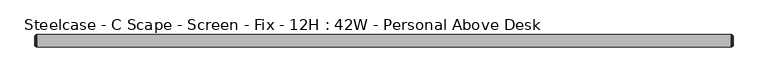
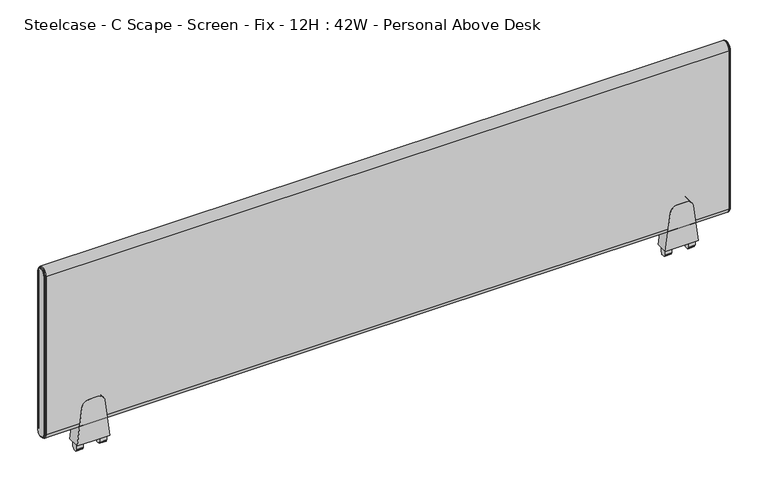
"""IFC4 building model written with IfcOpenShell, lengths in millimetres: furniture geometry, Steelcase - C Scape - Screen - Fix - 12H : 42W - Personal Above Desk."""

from ifc_helpers import new_model, si_unit, point, frame, frame_2d, origin, place, context, project, spatial, polyline, circle_curve, ellipse_curve, trimmed, segment, composite_curve, outline, extrude, source, transform, mapped, element, save
from ifc_brep_helpers import plane_surface, cylinder_surface, revolved_surface, advanced_brep


def steelcase_c_scape_screen_fix_12h_42w_personal_above_desk_f8d1089c(model_context):
    return source(origin(), model_context, "Body", "SolidModel", [
        extrude(outline(composite_curve([segment(polyline([(723.811112, 101.4730434), (784.1362421, 94.0661495)]), True, "CONTINUOUS"), segment(trimmed(circle_curve(frame_2d((782.8143718, 83.300233)), 10.8467645), [point((784.1362421, 94.0661495))], [point((793.6611362, 83.300233))], False, "CARTESIAN"), True, "CONTINUOUS"), segment(polyline([(793.6611362, 83.300233), (793.6611362, 76.2001674), (793.6611362, 69.1001018)]), True, "CONTINUOUS"), segment(trimmed(circle_curve(frame_2d((782.8143718, 69.1001018)), 10.8467645), [point((793.6611362, 69.1001018))], [point((784.1362421, 58.3341853))], False, "CARTESIAN"), True, "CONTINUOUS"), segment(polyline([(784.1362421, 58.3341853), (723.811112, 50.9272915), (723.811112, 76.2001674), (723.811112, 101.4730434)]), True, "CONTINUOUS")], self_intersect=False)), frame((0.0, -9.525, 0.0), z_axis=(0.0, 1.0, 0.0), x_axis=(0.0, 0.0, 1.0)), (0.0, 0.0, 1.0), 19.05),
        extrude(outline(polyline([(4.5465975, 723.811112), (4.5465975, 713.9051033), (4.0139265, 713.0186748), (2.9972008, 713.0186748), (2.9972008, 710.7834188), (0.0, 710.692), (-2.9972008, 710.7834188), (-2.9972008, 713.0186748), (-4.0139265, 713.0186748), (-4.5465975, 713.9051033), (-4.5465975, 723.811112), (0.0, 723.811112), (4.5465975, 723.811112)])), frame((88.9267162, 0.0, 0.0), z_axis=(1.0, 0.0, 0.0), x_axis=(0.0, 1.0, 0.0)), (0.0, 0.0, 1.0), 10.7813187),
        extrude(outline(polyline([(4.5465975, 723.811112), (4.5465975, 713.9051033), (4.0139265, 713.0186748), (2.9972008, 713.0186748), (2.9972008, 710.7834188), (0.0, 710.692), (-2.9972008, 710.7834188), (-2.9972008, 713.0186748), (-4.0139265, 713.0186748), (-4.5465975, 713.9051033), (-4.5465975, 723.811112), (0.0, 723.811112), (4.5465975, 723.811112)])), frame((52.6923, 0.0, 0.0), z_axis=(1.0, 0.0, 0.0), x_axis=(0.0, 1.0, 0.0)), (0.0, 0.0, 1.0), 10.7813187),
        extrude(outline(composite_curve([segment(polyline([(723.811112, 1015.1107132), (784.1362421, 1007.7038193)]), True, "CONTINUOUS"), segment(trimmed(circle_curve(frame_2d((782.8143718, 996.9379028)), 10.8467645), [point((784.1362421, 1007.7038193))], [point((793.6611362, 996.9379028))], False, "CARTESIAN"), True, "CONTINUOUS"), segment(polyline([(793.6611362, 996.9379028), (793.6611362, 989.8378372), (793.6611362, 982.7377716)]), True, "CONTINUOUS"), segment(trimmed(circle_curve(frame_2d((782.8143718, 982.7377716)), 10.8467645), [point((793.6611362, 982.7377716))], [point((784.1362421, 971.9718551))], False, "CARTESIAN"), True, "CONTINUOUS"), segment(polyline([(784.1362421, 971.9718551), (723.811112, 964.5649612), (723.811112, 989.8378372), (723.811112, 1015.1107132)]), True, "CONTINUOUS")], self_intersect=False)), frame((0.0, -9.525, 0.0), z_axis=(0.0, 1.0, 0.0), x_axis=(0.0, 0.0, 1.0)), (0.0, 0.0, 1.0), 19.05),
        extrude(outline(polyline([(4.5465975, 723.811112), (4.5465975, 713.9051033), (4.0139265, 713.0186748), (2.9972008, 713.0186748), (2.9972008, 710.7834188), (0.0, 710.692), (-2.9972008, 710.7834188), (-2.9972008, 713.0186748), (-4.0139265, 713.0186748), (-4.5465975, 713.9051033), (-4.5465975, 723.811112), (0.0, 723.811112), (4.5465975, 723.811112)])), frame((1002.564386, 0.0, 0.0), z_axis=(1.0, 0.0, 0.0), x_axis=(0.0, 1.0, 0.0)), (0.0, 0.0, 1.0), 10.7813187),
        extrude(outline(polyline([(4.5465975, 723.811112), (4.5465975, 713.9051033), (4.0139265, 713.0186748), (2.9972008, 713.0186748), (2.9972008, 710.7834188), (0.0, 710.692), (-2.9972008, 710.7834188), (-2.9972008, 713.0186748), (-4.0139265, 713.0186748), (-4.5465975, 713.9051033), (-4.5465975, 723.811112), (0.0, 723.811112), (4.5465975, 723.811112)])), frame((966.3299698, 0.0, 0.0), z_axis=(1.0, 0.0, 0.0), x_axis=(0.0, 1.0, 0.0)), (0.0, 0.0, 1.0), 10.7813187),
        advanced_brep(
        [(1063.2486613, -9.525, 1019.175), (1063.2486613, 9.525, 1019.175), (1063.2486613, 9.525, 758.825), (1063.2486613, -9.525, 758.825), (1066.0426613, 7.4929583, 1019.175), (1066.0426613, -7.4929583, 1019.175), (1066.0426613, -7.4929583, 758.825), (1066.0426613, 7.4929583, 758.825), (1065.5346545, -8.0009651, 1019.175), (1065.5346545, 8.0009651, 1019.175), (1064.2646613, 8.0009651, 1019.175), (1064.2646613, -8.0009651, 1019.175), (1064.2646613, -8.8204932, 1019.175), (1064.2646613, 8.8204932, 1019.175), (1064.2646613, -8.0009651, 758.825), (1065.5346545, -8.0009651, 758.825), (1064.2646613, -8.8204932, 758.825), (1064.2646613, 8.0009651, 758.825), (1065.5346545, 8.0009651, 758.825), (1064.2646613, 8.8204932, 758.825)],
        [
            (0, 1, circle_curve(frame((1063.2486613, 0.0, 1019.175), z_axis=(-1.0, 0.0, 0.0), x_axis=(0.0, 1.0, 0.0)), 9.525)),
            (1, 2),
            (2, 3, circle_curve(frame((1063.2486613, 0.0, 758.825), z_axis=(-1.0, 0.0, 0.0), x_axis=(0.0, -1.0, 0.0)), 9.525)),
            (3, 0),
            (4, 5, circle_curve(frame((1066.0426613, 0.0, 1019.175), z_axis=(1.0, 0.0, 0.0), x_axis=(0.0, 1.0, 0.0)), 7.4929583)),
            (5, 6),
            (6, 7, circle_curve(frame((1066.0426613, 0.0, 758.825), z_axis=(1.0, 0.0, 0.0), x_axis=(0.0, -1.0, 0.0)), 7.4929583)),
            (7, 4),
            (8, 9, circle_curve(frame((1065.5346545, 0.0, 1019.175), z_axis=(-1.0, 0.0, 0.0), x_axis=(0.0, 1.0, 0.0)), 8.0009651)),
            (9, 10),
            (10, 11, circle_curve(frame((1064.2646613, 0.0, 1019.175), z_axis=(1.0, 0.0, 0.0), x_axis=(0.0, 1.0, 0.0)), 8.0009651)),
            (11, 8),
            (8, 5, circle_curve(frame((1065.5346545, -7.4929583, 1019.175), z_axis=(0.0, 0.0, 1.0), x_axis=(0.0, -1.0, 0.0)), 0.5080068)),
            (4, 9, circle_curve(frame((1065.5346545, 7.4929583, 1019.175), z_axis=(0.0, 0.0, 1.0), x_axis=(0.0, 1.0, 0.0)), 0.5080068)),
            (12, 13, circle_curve(frame((1064.2646613, 0.0, 1019.175), z_axis=(-1.0, 0.0, 0.0), x_axis=(0.0, 1.0, 0.0)), 8.8204932)),
            (13, 1, circle_curve(frame((1063.1806211, 8.3420139, 1019.175), z_axis=(0.0, 0.0, 1.0), x_axis=(0.0, 1.0, 0.0)), 1.1849411)),
            (0, 12, circle_curve(frame((1063.1806211, -8.3420139, 1019.175), z_axis=(0.0, 0.0, 1.0), x_axis=(0.0, -1.0, 0.0)), 1.1849411)),
            (11, 14),
            (14, 15),
            (15, 8),
            (15, 6, circle_curve(frame((1065.5346545, -7.4929583, 758.825), z_axis=(0.0, 0.0, 1.0), x_axis=(0.0, -1.0, 0.0)), 0.5080068)),
            (3, 16, circle_curve(frame((1063.1806211, -8.3420139, 758.825), z_axis=(0.0, 0.0, 1.0), x_axis=(0.0, -1.0, 0.0)), 1.1849411)),
            (16, 12),
            (14, 17, circle_curve(frame((1064.2646613, 0.0, 758.825), z_axis=(1.0, 0.0, 0.0), x_axis=(0.0, -1.0, 0.0)), 8.0009651)),
            (17, 18),
            (18, 15, circle_curve(frame((1065.5346545, 0.0, 758.825), z_axis=(-1.0, 0.0, 0.0), x_axis=(0.0, -1.0, 0.0)), 8.0009651)),
            (18, 7, circle_curve(frame((1065.5346545, 7.4929583, 758.825), z_axis=(0.0, 0.0, -1.0), x_axis=(0.0, 1.0, 0.0)), 0.5080068)),
            (2, 19, circle_curve(frame((1063.1806211, 8.3420139, 758.825), z_axis=(0.0, 0.0, -1.0), x_axis=(0.0, 1.0, 0.0)), 1.1849411)),
            (19, 16, circle_curve(frame((1064.2646613, 0.0, 758.825), z_axis=(-1.0, 0.0, 0.0), x_axis=(0.0, -1.0, 0.0)), 8.8204932)),
            (9, 18),
            (17, 10),
            (13, 19),
        ],
        [
            plane_surface(frame((1063.2486613, -6.3509705, 1019.175), z_axis=(-1.0, 0.0, 0.0), x_axis=(0.0, 0.0, 1.0))),
            plane_surface(frame((1066.0426613, -6.3509705, 1019.175), z_axis=(1.0, 0.0, 0.0), x_axis=(0.0, 0.0, -1.0))),
            cylinder_surface(frame((1063.2486613, 0.0, 1019.175), z_axis=(1.0, 0.0, 0.0), x_axis=(0.0, 1.0, 0.0)), 8.0009651),
            revolved_surface(trimmed(ellipse_curve(frame((1065.5346545, 7.4929583, 1019.175), z_axis=(0.0, 0.0, -1.0), x_axis=(0.0, 1.0, 0.0)), 0.5080068, 0.5080068), [point((1065.5346545, 8.0009651, 1019.175))], [point((1066.0426613, 7.4929583, 1019.175))], True, "CARTESIAN"), (1063.2486613, 0.0, 1019.175), (1.0, 0.0, 0.0)),
            revolved_surface(trimmed(ellipse_curve(frame((1063.1806211, 8.3420139, 1019.175), z_axis=(0.0, 0.0, -1.0), x_axis=(0.0, 1.0, 0.0)), 1.1849411, 1.1849411), [point((1063.2486613, 9.525, 1019.175))], [point((1064.2646613, 8.8204932, 1019.175))], True, "CARTESIAN"), (1063.2486613, 0.0, 1019.175), (1.0, 0.0, 0.0)),
            plane_surface(frame((1064.2646613, -8.0009651, 1019.175), z_axis=(0.0, -1.0, 0.0), x_axis=(0.0, 0.0, -1.0))),
            cylinder_surface(frame((1065.5346545, -7.4929583, 1019.175), z_axis=(0.0, 0.0, 1.0), x_axis=(0.0, -1.0, 0.0)), 0.5080068),
            cylinder_surface(frame((1063.1806211, -8.3420139, 1019.175), z_axis=(0.0, 0.0, 1.0), x_axis=(0.0, -1.0, 0.0)), 1.1849411),
            cylinder_surface(frame((1063.2486613, 0.0, 758.825), z_axis=(1.0, 0.0, 0.0), x_axis=(0.0, -1.0, 0.0)), 8.0009651),
            revolved_surface(trimmed(ellipse_curve(frame((1065.5346545, -7.4929583, 758.825), z_axis=(0.0, 0.0, 1.0), x_axis=(0.0, -1.0, 0.0)), 0.5080068, 0.5080068), [point((1065.5346545, -8.0009651, 758.825))], [point((1066.0426613, -7.4929583, 758.825))], True, "CARTESIAN"), (1063.2486613, 0.0, 758.825), (1.0, 0.0, 0.0)),
            revolved_surface(trimmed(ellipse_curve(frame((1063.1806211, -8.3420139, 758.825), z_axis=(0.0, 0.0, 1.0), x_axis=(0.0, -1.0, 0.0)), 1.1849411, 1.1849411), [point((1063.2486613, -9.525, 758.825))], [point((1064.2646613, -8.8204932, 758.825))], True, "CARTESIAN"), (1063.2486613, 0.0, 758.825), (1.0, 0.0, 0.0)),
            plane_surface(frame((1064.2646613, 8.0009651, 758.825), z_axis=(0.0, 1.0, 0.0), x_axis=(0.0, 0.0, 1.0))),
            cylinder_surface(frame((1065.5346545, 7.4929583, 758.825), z_axis=(0.0, 0.0, -1.0), x_axis=(0.0, 1.0, 0.0)), 0.5080068),
            cylinder_surface(frame((1063.1806211, 8.3420139, 758.825), z_axis=(0.0, 0.0, -1.0), x_axis=(0.0, 1.0, 0.0)), 1.1849411),
            plane_surface(frame((1064.2646613, 8.8204932, 758.825), z_axis=(1.0, 0.0, 0.0), x_axis=(0.0, 0.0, 1.0))),
        ],
        [
            (0, [[1, 2, 3, 4]]),
            (1, [[5, 6, 7, 8]]),
            (2, [[9, 10, 11, 12]]),
            (3, [[-9, 13, -5, 14]]),
            (4, [[15, 16, -1, 17]]),
            (5, [[-12, 18, 19, 20]]),
            (6, [[-13, -20, 21, -6]]),
            (7, [[-17, -4, 22, 23]]),
            (8, [[-19, 24, 25, 26]]),
            (9, [[-21, -26, 27, -7]]),
            (10, [[-22, -3, 28, 29]]),
            (11, [[-10, 30, -25, 31]]),
            (12, [[-14, -8, -27, -30]]),
            (13, [[-16, 32, -28, -2]]),
            (14, [[-15, -23, -29, -32], [-11, -31, -24, -18]]),
        ],
    ),
        advanced_brep(
        [(2.7940155, 9.525, 1019.175), (2.7940155, -9.525, 1019.175), (2.7940155, -9.525, 758.825), (2.7940155, 9.525, 758.825), (0.0, -7.4929583, 1019.175), (0.0, 7.4929583, 1019.175), (0.0, 7.4929583, 758.825), (0.0, -7.4929583, 758.825), (1.778, 8.8204932, 1019.175), (1.778, -8.8204932, 1019.175), (0.5080068, -8.0009651, 1019.175), (0.5080068, 8.0009651, 1019.175), (1.778, -8.0009651, 1019.175), (1.778, 8.0009651, 1019.175), (1.778, -8.8204932, 758.825), (0.5080068, -8.0009651, 758.825), (1.778, -8.0009651, 758.825), (1.778, 8.8204932, 758.825), (0.5080068, 8.0009651, 758.825), (1.778, 8.0009651, 758.825)],
        [
            (0, 1, circle_curve(frame((2.7940155, 0.0, 1019.175), z_axis=(1.0, 0.0, 0.0), x_axis=(0.0, 1.0, 0.0)), 9.525)),
            (1, 2),
            (2, 3, circle_curve(frame((2.7940155, 0.0, 758.825), z_axis=(1.0, 0.0, 0.0), x_axis=(0.0, -1.0, 0.0)), 9.525)),
            (3, 0),
            (4, 5, circle_curve(frame((0.0, 0.0, 1019.175), z_axis=(-1.0, 0.0, 0.0), x_axis=(0.0, 1.0, 0.0)), 7.4929583)),
            (5, 6),
            (6, 7, circle_curve(frame((0.0, 0.0, 758.825), z_axis=(-1.0, 0.0, 0.0), x_axis=(0.0, -1.0, 0.0)), 7.4929583)),
            (7, 4),
            (0, 8, circle_curve(frame((2.8620402, 8.3420139, 1019.175), z_axis=(0.0, 0.0, 1.0), x_axis=(0.0, -1.0, 0.0)), 1.1849411)),
            (8, 9, circle_curve(frame((1.778, 0.0, 1019.175), z_axis=(1.0, 0.0, 0.0), x_axis=(0.0, 1.0, 0.0)), 8.8204932)),
            (9, 1, circle_curve(frame((2.8620402, -8.3420139, 1019.175), z_axis=(0.0, 0.0, 1.0), x_axis=(0.0, 1.0, 0.0)), 1.1849411)),
            (10, 11, circle_curve(frame((0.5080068, 0.0, 1019.175), z_axis=(-1.0, 0.0, 0.0), x_axis=(0.0, 1.0, 0.0)), 8.0009651)),
            (11, 5, circle_curve(frame((0.5080068, 7.4929583, 1019.175), z_axis=(0.0, 0.0, 1.0), x_axis=(0.0, -1.0, 0.0)), 0.5080068)),
            (4, 10, circle_curve(frame((0.5080068, -7.4929583, 1019.175), z_axis=(0.0, 0.0, 1.0), x_axis=(0.0, 1.0, 0.0)), 0.5080068)),
            (10, 12),
            (12, 13, circle_curve(frame((1.778, 0.0, 1019.175), z_axis=(-1.0, 0.0, 0.0), x_axis=(0.0, 1.0, 0.0)), 8.0009651)),
            (13, 11),
            (9, 14),
            (14, 2, circle_curve(frame((2.8620402, -8.3420139, 758.825), z_axis=(0.0, 0.0, 1.0), x_axis=(0.0, 1.0, 0.0)), 1.1849411)),
            (7, 15, circle_curve(frame((0.5080068, -7.4929583, 758.825), z_axis=(0.0, 0.0, 1.0), x_axis=(0.0, 1.0, 0.0)), 0.5080068)),
            (15, 10),
            (15, 16),
            (16, 12),
            (14, 17, circle_curve(frame((1.778, 0.0, 758.825), z_axis=(1.0, 0.0, 0.0), x_axis=(0.0, -1.0, 0.0)), 8.8204932)),
            (17, 3, circle_curve(frame((2.8620402, 8.3420139, 758.825), z_axis=(0.0, 0.0, -1.0), x_axis=(0.0, -1.0, 0.0)), 1.1849411)),
            (6, 18, circle_curve(frame((0.5080068, 7.4929583, 758.825), z_axis=(0.0, 0.0, -1.0), x_axis=(0.0, -1.0, 0.0)), 0.5080068)),
            (18, 15, circle_curve(frame((0.5080068, 0.0, 758.825), z_axis=(-1.0, 0.0, 0.0), x_axis=(0.0, -1.0, 0.0)), 8.0009651)),
            (18, 19),
            (19, 16, circle_curve(frame((1.778, 0.0, 758.825), z_axis=(-1.0, 0.0, 0.0), x_axis=(0.0, -1.0, 0.0)), 8.0009651)),
            (8, 17),
            (19, 13),
            (11, 18),
        ],
        [
            plane_surface(frame((2.7940155, -6.3509705, 1019.175), z_axis=(1.0, 0.0, 0.0), x_axis=(0.0, 0.0, -1.0))),
            plane_surface(frame((0.0, -6.3509705, 1019.175), z_axis=(-1.0, 0.0, 0.0), x_axis=(0.0, 0.0, 1.0))),
            revolved_surface(trimmed(ellipse_curve(frame((2.8620402, 8.3420139, 1019.175), z_axis=(0.0, 0.0, -1.0), x_axis=(0.0, -1.0, 0.0)), 1.1849411, 1.1849411), [point((1.778, 8.8204932, 1019.175))], [point((2.794, 9.525, 1019.175))], True, "CARTESIAN"), (2.794, 0.0, 1019.175), (1.0, 0.0, 0.0)),
            revolved_surface(trimmed(ellipse_curve(frame((0.5080068, 7.4929583, 1019.175), z_axis=(0.0, 0.0, -1.0), x_axis=(0.0, -1.0, 0.0)), 0.5080068, 0.5080068), [point((0.0, 7.4929583, 1019.175))], [point((0.5080068, 8.0009651, 1019.175))], True, "CARTESIAN"), (2.794, 0.0, 1019.175), (1.0, 0.0, 0.0)),
            cylinder_surface(frame((2.794, 0.0, 1019.175), z_axis=(1.0, 0.0, 0.0), x_axis=(0.0, 1.0, 0.0)), 8.0009651),
            cylinder_surface(frame((2.8620402, -8.3420139, 1019.175), z_axis=(0.0, 0.0, 1.0), x_axis=(0.0, 1.0, 0.0)), 1.1849411),
            cylinder_surface(frame((0.5080068, -7.4929583, 1019.175), z_axis=(0.0, 0.0, 1.0), x_axis=(0.0, 1.0, 0.0)), 0.5080068),
            plane_surface(frame((0.5080068, -8.0009651, 1019.175), z_axis=(0.0, -1.0, 0.0), x_axis=(0.0, 0.0, -1.0))),
            revolved_surface(trimmed(ellipse_curve(frame((2.8620402, -8.3420139, 758.825), z_axis=(0.0, 0.0, 1.0), x_axis=(0.0, 1.0, 0.0)), 1.1849411, 1.1849411), [point((1.778, -8.8204932, 758.825))], [point((2.794, -9.525, 758.825))], True, "CARTESIAN"), (2.794, 0.0, 758.825), (1.0, 0.0, 0.0)),
            revolved_surface(trimmed(ellipse_curve(frame((0.5080068, -7.4929583, 758.825), z_axis=(0.0, 0.0, 1.0), x_axis=(0.0, 1.0, 0.0)), 0.5080068, 0.5080068), [point((0.0, -7.4929583, 758.825))], [point((0.5080068, -8.0009651, 758.825))], True, "CARTESIAN"), (2.794, 0.0, 758.825), (1.0, 0.0, 0.0)),
            cylinder_surface(frame((2.794, 0.0, 758.825), z_axis=(1.0, 0.0, 0.0), x_axis=(0.0, -1.0, 0.0)), 8.0009651),
            plane_surface(frame((1.778, 8.0009651, 758.825), z_axis=(-1.0, 0.0, 0.0), x_axis=(0.0, 0.0, 1.0))),
            cylinder_surface(frame((2.8620402, 8.3420139, 758.825), z_axis=(0.0, 0.0, -1.0), x_axis=(0.0, -1.0, 0.0)), 1.1849411),
            cylinder_surface(frame((0.5080068, 7.4929583, 758.825), z_axis=(0.0, 0.0, -1.0), x_axis=(0.0, -1.0, 0.0)), 0.5080068),
            plane_surface(frame((0.5080068, 8.0009651, 758.825), z_axis=(0.0, 1.0, 0.0), x_axis=(0.0, 0.0, 1.0))),
        ],
        [
            (0, [[1, 2, 3, 4]]),
            (1, [[5, 6, 7, 8]]),
            (2, [[-1, 9, 10, 11]]),
            (3, [[12, 13, -5, 14]]),
            (4, [[-12, 15, 16, 17]]),
            (5, [[-11, 18, 19, -2]]),
            (6, [[-14, -8, 20, 21]]),
            (7, [[-15, -21, 22, 23]]),
            (8, [[-19, 24, 25, -3]]),
            (9, [[-20, -7, 26, 27]]),
            (10, [[-22, -27, 28, 29]]),
            (11, [[-10, 30, -24, -18], [-16, -23, -29, 31]]),
            (12, [[-9, -4, -25, -30]]),
            (13, [[-13, 32, -26, -6]]),
            (14, [[-17, -31, -28, -32]]),
        ],
    ),
        extrude(outline(composite_curve([segment(trimmed(circle_curve(frame_2d((0.0, 1019.175)), 9.525), [point((-9.525, 1019.175))], [point((9.525, 1019.175))], False, "CARTESIAN"), True, "CONTINUOUS"), segment(polyline([(9.525, 1019.175), (9.525, 758.825)]), True, "CONTINUOUS"), segment(trimmed(circle_curve(frame_2d((0.0, 758.825)), 9.525), [point((9.525, 758.825))], [point((-9.525, 758.825))], False, "CARTESIAN"), True, "CONTINUOUS"), segment(polyline([(-9.525, 758.825), (-9.525, 1019.175)]), True, "CONTINUOUS")], self_intersect=False)), frame((2.794, 0.0, 0.0), z_axis=(1.0, 0.0, 0.0), x_axis=(0.0, 1.0, 0.0)), (0.0, 0.0, 1.0), 1060.4546613),
    ])


if __name__ == "__main__":
    model = new_model("IFC4")
    model_context = context("Model", 3, world=origin())
    ifc_project = project(units=[si_unit("LENGTHUNIT", "METRE", prefix="MILLI")], contexts=[model_context])
    site = spatial("IfcSite", under=ifc_project)
    building = spatial("IfcBuilding", under=site)
    placement = place(None, origin())
    steelcase_c_scape_screen_fix_12h_42w_personal_above_desk_shape = steelcase_c_scape_screen_fix_12h_42w_personal_above_desk_f8d1089c(model_context)
    element("IfcFurniture", 1, ObjectType="Steelcase - C Scape - Screen - Fix - 12H : 42W - Personal Above Desk", at=placement, inside=building, context=model_context, shape_type="MappedRepresentation", body=[
        mapped(steelcase_c_scape_screen_fix_12h_42w_personal_above_desk_shape, transform((0.0, 0.0, 0.0), x_axis=(1.0, 0.0, 0.0), y_axis=(0.0, 1.0, 0.0), z_axis=(0.0, 0.0, 1.0))),
    ])
    save(model, "model.ifc")
